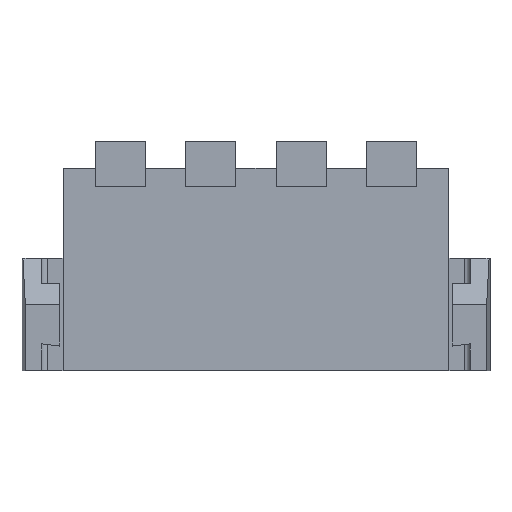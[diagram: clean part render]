
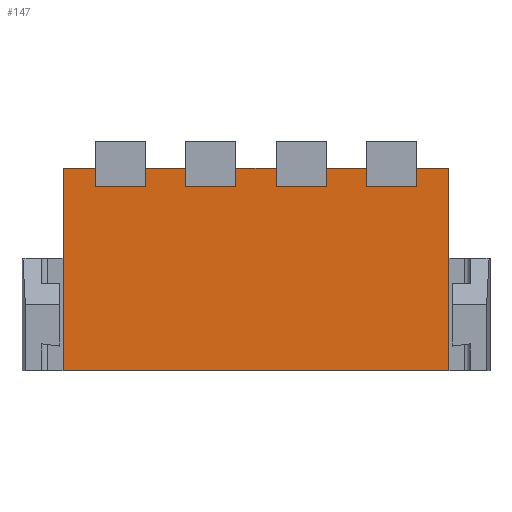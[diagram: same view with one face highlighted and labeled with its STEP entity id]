
A CAD part, front view. The second image highlights one B-rep face of the part: STEP entity #147.
In plain terms, the highlighted planar face has unit normal (0, -1, 0).
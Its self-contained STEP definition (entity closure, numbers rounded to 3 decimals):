
#147=ADVANCED_FACE('',(#293),#215,.F.);
#215=PLANE('',#1714);
#293=FACE_OUTER_BOUND('',#371,.T.);
#371=EDGE_LOOP('',(#773,#774,#775,#776,#777,#778,#779,#780,#781,#782,#783,
#784,#785,#786,#787,#788,#789,#790,#791,#792));
#773=ORIENTED_EDGE('',*,*,#1181,.T.);
#774=ORIENTED_EDGE('',*,*,#1013,.F.);
#775=ORIENTED_EDGE('',*,*,#998,.F.);
#776=ORIENTED_EDGE('',*,*,#1009,.T.);
#777=ORIENTED_EDGE('',*,*,#1187,.T.);
#778=ORIENTED_EDGE('',*,*,#1179,.T.);
#779=ORIENTED_EDGE('',*,*,#1171,.F.);
#780=ORIENTED_EDGE('',*,*,#1169,.T.);
#781=ORIENTED_EDGE('',*,*,#1186,.T.);
#782=ORIENTED_EDGE('',*,*,#1163,.F.);
#783=ORIENTED_EDGE('',*,*,#1160,.F.);
#784=ORIENTED_EDGE('',*,*,#1158,.T.);
#785=ORIENTED_EDGE('',*,*,#1185,.T.);
#786=ORIENTED_EDGE('',*,*,#1146,.F.);
#787=ORIENTED_EDGE('',*,*,#1143,.T.);
#788=ORIENTED_EDGE('',*,*,#1141,.F.);
#789=ORIENTED_EDGE('',*,*,#1184,.T.);
#790=ORIENTED_EDGE('',*,*,#1128,.F.);
#791=ORIENTED_EDGE('',*,*,#1208,.F.);
#792=ORIENTED_EDGE('',*,*,#1206,.T.);
#842=VERTEX_POINT('',#2164);
#843=VERTEX_POINT('',#2165);
#851=VERTEX_POINT('',#2185);
#853=VERTEX_POINT('',#2195);
#930=VERTEX_POINT('',#2427);
#931=VERTEX_POINT('',#2429);
#940=VERTEX_POINT('',#2454);
#941=VERTEX_POINT('',#2456);
#942=VERTEX_POINT('',#2460);
#943=VERTEX_POINT('',#2464);
#952=VERTEX_POINT('',#2489);
#953=VERTEX_POINT('',#2491);
#954=VERTEX_POINT('',#2495);
#955=VERTEX_POINT('',#2499);
#956=VERTEX_POINT('',#2503);
#961=VERTEX_POINT('',#2512);
#963=VERTEX_POINT('',#2518);
#967=VERTEX_POINT('',#2534);
#968=VERTEX_POINT('',#2538);
#980=VERTEX_POINT('',#2583);
#998=EDGE_CURVE('',#842,#843,#1224,.T.);
#1009=EDGE_CURVE('',#842,#851,#1235,.T.);
#1013=EDGE_CURVE('',#843,#853,#1239,.T.);
#1128=EDGE_CURVE('',#930,#931,#1331,.T.);
#1141=EDGE_CURVE('',#940,#941,#1344,.T.);
#1143=EDGE_CURVE('',#942,#941,#1346,.T.);
#1146=EDGE_CURVE('',#942,#943,#1349,.T.);
#1158=EDGE_CURVE('',#953,#952,#1361,.T.);
#1160=EDGE_CURVE('',#953,#954,#1363,.T.);
#1163=EDGE_CURVE('',#954,#955,#1366,.T.);
#1169=EDGE_CURVE('',#956,#961,#1372,.T.);
#1171=EDGE_CURVE('',#956,#963,#1374,.T.);
#1179=EDGE_CURVE('',#967,#963,#1382,.T.);
#1181=EDGE_CURVE('',#968,#853,#1384,.T.);
#1184=EDGE_CURVE('',#940,#931,#1387,.T.);
#1185=EDGE_CURVE('',#952,#943,#1388,.T.);
#1186=EDGE_CURVE('',#961,#955,#1389,.T.);
#1187=EDGE_CURVE('',#851,#967,#1390,.T.);
#1206=EDGE_CURVE('',#980,#968,#1407,.T.);
#1208=EDGE_CURVE('',#980,#930,#1409,.T.);
#1224=LINE('',#2163,#1425);
#1235=LINE('',#2186,#1436);
#1239=LINE('',#2194,#1440);
#1331=LINE('',#2428,#1532);
#1344=LINE('',#2455,#1545);
#1346=LINE('',#2459,#1547);
#1349=LINE('',#2465,#1550);
#1361=LINE('',#2490,#1562);
#1363=LINE('',#2494,#1564);
#1366=LINE('',#2500,#1567);
#1372=LINE('',#2513,#1573);
#1374=LINE('',#2517,#1575);
#1382=LINE('',#2533,#1583);
#1384=LINE('',#2537,#1585);
#1387=LINE('',#2542,#1588);
#1388=LINE('',#2543,#1589);
#1389=LINE('',#2544,#1590);
#1390=LINE('',#2545,#1591);
#1407=LINE('',#2582,#1608);
#1409=LINE('',#2586,#1610);
#1425=VECTOR('',#1747,1.);
#1436=VECTOR('',#1762,1.);
#1440=VECTOR('',#1772,1.);
#1532=VECTOR('',#1984,1.);
#1545=VECTOR('',#2005,1.);
#1547=VECTOR('',#2009,1.);
#1550=VECTOR('',#2014,1.);
#1562=VECTOR('',#2034,1.);
#1564=VECTOR('',#2038,1.);
#1567=VECTOR('',#2043,1.);
#1573=VECTOR('',#2051,1.);
#1575=VECTOR('',#2055,1.);
#1583=VECTOR('',#2071,1.);
#1585=VECTOR('',#2075,1.);
#1588=VECTOR('',#2078,1.);
#1589=VECTOR('',#2079,1.);
#1590=VECTOR('',#2080,1.);
#1591=VECTOR('',#2081,1.);
#1608=VECTOR('',#2118,1.);
#1610=VECTOR('',#2122,1.);
#1714=AXIS2_PLACEMENT_3D('',#2587,#2123,#2124);
#1747=DIRECTION('',(1.,0.,0.));
#1762=DIRECTION('',(0.,0.,1.));
#1772=DIRECTION('',(0.,0.,1.));
#1984=DIRECTION('',(0.,0.,1.));
#2005=DIRECTION('',(0.,0.,-1.));
#2009=DIRECTION('',(-1.,0.,0.));
#2014=DIRECTION('',(0.,0.,1.));
#2034=DIRECTION('',(0.,0.,1.));
#2038=DIRECTION('',(1.,0.,0.));
#2043=DIRECTION('',(0.,0.,1.));
#2051=DIRECTION('',(0.,0.,1.));
#2055=DIRECTION('',(1.,0.,0.));
#2071=DIRECTION('',(0.,0.,-1.));
#2075=DIRECTION('',(-1.,0.,0.));
#2078=DIRECTION('',(-1.,0.,0.));
#2079=DIRECTION('',(-1.,0.,0.));
#2080=DIRECTION('',(-1.,0.,0.));
#2081=DIRECTION('',(-1.,0.,0.));
#2118=DIRECTION('',(0.,0.,1.));
#2122=DIRECTION('',(-1.,0.,0.));
#2123=DIRECTION('',(0.,1.,0.));
#2124=DIRECTION('',(1.,0.,0.));
#2163=CARTESIAN_POINT('',(5.132,0.,8.564));
#2164=CARTESIAN_POINT('',(5.132,0.,8.564));
#2165=CARTESIAN_POINT('',(7.468,0.,8.564));
#2185=CARTESIAN_POINT('',(5.132,0.,9.428));
#2186=CARTESIAN_POINT('',(5.132,0.,8.564));
#2194=CARTESIAN_POINT('',(7.468,0.,8.564));
#2195=CARTESIAN_POINT('',(7.468,0.,9.428));
#2427=CARTESIAN_POINT('',(-8.99,0.,0.));
#2428=CARTESIAN_POINT('',(-8.99,0.,0.));
#2429=CARTESIAN_POINT('',(-8.99,0.,9.428));
#2454=CARTESIAN_POINT('',(-7.468,0.,9.428));
#2455=CARTESIAN_POINT('',(-7.468,0.,9.428));
#2456=CARTESIAN_POINT('',(-7.468,0.,8.564));
#2459=CARTESIAN_POINT('',(-5.132,0.,8.564));
#2460=CARTESIAN_POINT('',(-5.132,0.,8.564));
#2464=CARTESIAN_POINT('',(-5.132,0.,9.428));
#2465=CARTESIAN_POINT('',(-5.132,0.,8.564));
#2489=CARTESIAN_POINT('',(-3.268,0.,9.428));
#2490=CARTESIAN_POINT('',(-3.268,0.,8.564));
#2491=CARTESIAN_POINT('',(-3.268,0.,8.564));
#2494=CARTESIAN_POINT('',(-3.268,0.,8.564));
#2495=CARTESIAN_POINT('',(-0.932,0.,8.564));
#2499=CARTESIAN_POINT('',(-0.932,0.,9.428));
#2500=CARTESIAN_POINT('',(-0.932,0.,8.564));
#2503=CARTESIAN_POINT('',(0.932,0.,8.564));
#2512=CARTESIAN_POINT('',(0.932,0.,9.428));
#2513=CARTESIAN_POINT('',(0.932,0.,8.564));
#2517=CARTESIAN_POINT('',(0.932,0.,8.564));
#2518=CARTESIAN_POINT('',(3.268,0.,8.564));
#2533=CARTESIAN_POINT('',(3.268,0.,9.428));
#2534=CARTESIAN_POINT('',(3.268,0.,9.428));
#2537=CARTESIAN_POINT('',(8.99,0.,9.428));
#2538=CARTESIAN_POINT('',(8.99,0.,9.428));
#2542=CARTESIAN_POINT('',(-7.468,0.,9.428));
#2543=CARTESIAN_POINT('',(-3.268,0.,9.428));
#2544=CARTESIAN_POINT('',(0.932,0.,9.428));
#2545=CARTESIAN_POINT('',(5.132,0.,9.428));
#2582=CARTESIAN_POINT('',(8.99,0.,0.));
#2583=CARTESIAN_POINT('',(8.99,0.,0.));
#2586=CARTESIAN_POINT('',(8.99,0.,0.));
#2587=CARTESIAN_POINT('',(7.797,0.,0.));
